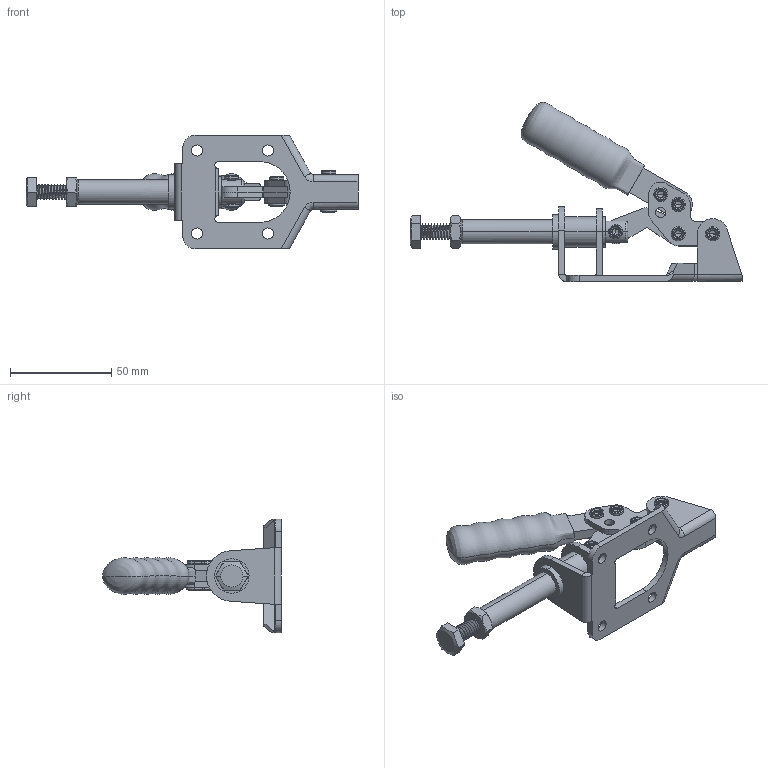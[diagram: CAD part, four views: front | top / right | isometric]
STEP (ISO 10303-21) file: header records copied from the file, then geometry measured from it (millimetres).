
FILE_DESCRIPTION (( 'STEP AP203' ), '1' );
FILE_NAME ('SK3-021Z-3.STEP', '2018-11-01T08:28:08', ( 'admin' ), ( 'Microsoft' ), 'SwSTEP 2.0', 'SolidWorks 2015', '' );
FILE_SCHEMA (( 'CONFIG_CONTROL_DESIGN' ));
Length unit declared in the file: millimetre
Products named in the file (12): SK3-021Z-3蟀諉璃1; SK3-021Z-3蟀諉璃2; M8 1.25鼠備酗僅5; SK3-021Z-3种隊傻; SK3-021Z-3种隊酗; SK3-021Z-3菁釱; SK3-021Z-3种隊笢; SK3-021Z-3M8鞠褒蹟隊; SK3-021Z-3杶芠; SK3-021Z-3參忒; SK3-021Z-3; SK3-021Z-3裝
Assembly tree (15 placements, depth 2):
  SK3-021Z-3
    SK3-021Z-3菁釱
    SK3-021Z-3M8鞠褒蹟隊
    SK3-021Z-3參忒
    SK3-021Z-3裝
    SK3-021Z-3蟀諉璃1  x2
    SK3-021Z-3蟀諉璃2  x2
    M8 1.25鼠備酗僅5
    SK3-021Z-3种隊傻  x3
    SK3-021Z-3种隊酗
    SK3-021Z-3种隊笢
    SK3-021Z-3杶芠
Bounding box: 163.98 x 88.41 x 56 mm (x, y, z)
Volume: 51468.1 mm3; surface area: 34929.9 mm2
Topology: 15 solids, 15 shells, 424 faces, 1047 edges, 656 vertices
Faces by surface type: cylinder 205, plane 115, torus 51, cone 41, bspline 12
Entity records: 36892 total; most frequent: CARTESIAN_POINT 27564, DIRECTION 1689, ORIENTED_EDGE 1672, EDGE_CURVE 836, AXIS2_PLACEMENT_3D 669, VERTEX_POINT 532, EDGE_LOOP 392, LINE 351
